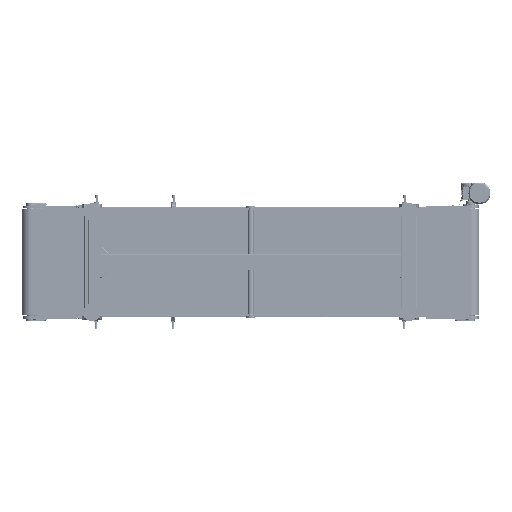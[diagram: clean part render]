
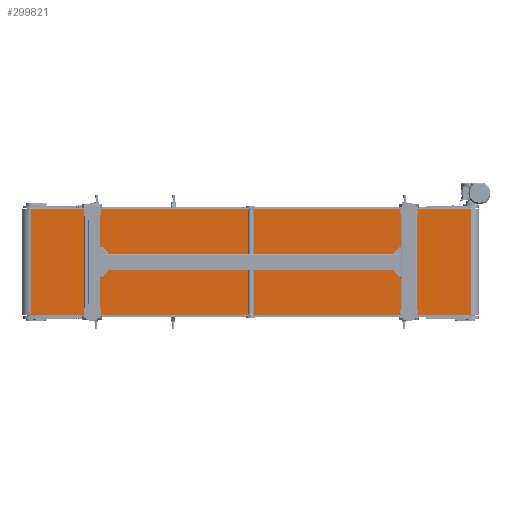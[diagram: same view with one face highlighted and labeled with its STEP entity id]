
A CAD part, front view. The second image highlights one B-rep face of the part: STEP entity #299821.
In plain terms, the highlighted planar face has unit normal (0, -1, 0).
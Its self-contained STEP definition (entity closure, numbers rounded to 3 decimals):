
#1900 = CARTESIAN_POINT ( 'NONE',  ( -1250., -49.5, 300. ) ) ;
#4367 = DIRECTION ( 'NONE',  ( 1., 0., 0. ) ) ;
#23883 = ORIENTED_EDGE ( 'NONE', *, *, #138367, .T. ) ;
#27241 = FACE_OUTER_BOUND ( 'NONE', #250646, .T. ) ;
#55943 = PLANE ( 'NONE',  #263728 ) ;
#59711 = ORIENTED_EDGE ( 'NONE', *, *, #224389, .F. ) ;
#62607 = VERTEX_POINT ( 'NONE', #170842 ) ;
#64648 = VECTOR ( 'NONE', #253891, 1000. ) ;
#68492 = ORIENTED_EDGE ( 'NONE', *, *, #129003, .F. ) ;
#97741 = VERTEX_POINT ( 'NONE', #325088 ) ;
#101913 = CARTESIAN_POINT ( 'NONE',  ( 1250., -49.5, 300. ) ) ;
#103586 = LINE ( 'NONE', #101913, #64648 ) ;
#105649 = LINE ( 'NONE', #291281, #118972 ) ;
#116693 = VERTEX_POINT ( 'NONE', #178394 ) ;
#118972 = VECTOR ( 'NONE', #4367, 1000. ) ;
#126822 = DIRECTION ( 'NONE',  ( 0., 1., 0. ) ) ;
#129003 = EDGE_CURVE ( 'NONE', #97741, #116693, #273001, .T. ) ;
#138367 = EDGE_CURVE ( 'NONE', #97741, #62607, #315238, .T. ) ;
#138694 = VERTEX_POINT ( 'NONE', #151224 ) ;
#139718 = DIRECTION ( 'NONE',  ( 1., 0., 0. ) ) ;
#146223 = EDGE_CURVE ( 'NONE', #62607, #138694, #105649, .T. ) ;
#151224 = CARTESIAN_POINT ( 'NONE',  ( 1250., -49.5, -300. ) ) ;
#170842 = CARTESIAN_POINT ( 'NONE',  ( -1250., -49.5, -300. ) ) ;
#178394 = CARTESIAN_POINT ( 'NONE',  ( 1250., -49.5, 300. ) ) ;
#182217 = VECTOR ( 'NONE', #267939, 1000. ) ;
#220690 = CARTESIAN_POINT ( 'NONE',  ( -1250., -49.5, 300. ) ) ;
#222550 = VECTOR ( 'NONE', #139718, 1000. ) ;
#224389 = EDGE_CURVE ( 'NONE', #116693, #138694, #103586, .T. ) ;
#231486 = DIRECTION ( 'NONE',  ( 0., 0., 1. ) ) ;
#239270 = CARTESIAN_POINT ( 'NONE',  ( -1250., -49.5, 300. ) ) ;
#250646 = EDGE_LOOP ( 'NONE', ( #286917, #59711, #68492, #23883 ) ) ;
#253891 = DIRECTION ( 'NONE',  ( 0., 0., -1. ) ) ;
#263728 = AXIS2_PLACEMENT_3D ( 'NONE', #1900, #126822, #231486 ) ;
#267939 = DIRECTION ( 'NONE',  ( 0., 0., -1. ) ) ;
#273001 = LINE ( 'NONE', #220690, #222550 ) ;
#286917 = ORIENTED_EDGE ( 'NONE', *, *, #146223, .T. ) ;
#291281 = CARTESIAN_POINT ( 'NONE',  ( -1250., -49.5, -300. ) ) ;
#299821 = ADVANCED_FACE ( 'NONE', ( #27241 ), #55943, .F. ) ;
#315238 = LINE ( 'NONE', #239270, #182217 ) ;
#325088 = CARTESIAN_POINT ( 'NONE',  ( -1250., -49.5, 300. ) ) ;
